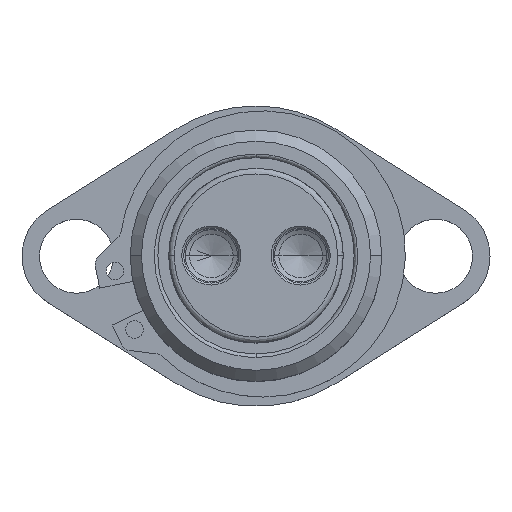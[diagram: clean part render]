
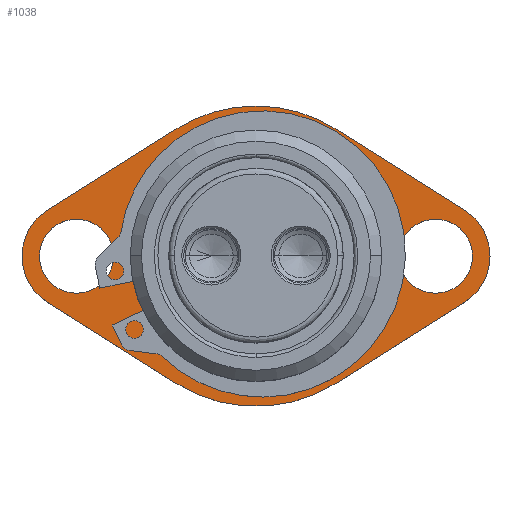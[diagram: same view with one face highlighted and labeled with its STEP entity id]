
A CAD part, top view. The second image highlights one B-rep face of the part: STEP entity #1038.
In plain terms, the highlighted planar face has unit normal (0, 0, 1) as drawn and (0, 1, 0) by its records, which use the part's own axes.
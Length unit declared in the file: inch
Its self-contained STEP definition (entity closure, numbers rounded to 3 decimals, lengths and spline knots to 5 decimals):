
#55 = EDGE_LOOP ( 'NONE', ( #2177, #4275, #4429, #4255, #3716, #3189, #1393, #2521, #4281 ) ) ;
#64 = CARTESIAN_POINT ( 'NONE',  ( 0., 0.25, 0. ) ) ;
#108 = CARTESIAN_POINT ( 'NONE',  ( -1.285, 0.25, 0. ) ) ;
#177 = FACE_BOUND ( 'NONE', #1784, .T. ) ;
#187 = CARTESIAN_POINT ( 'NONE',  ( -1.285, 0.25, 0. ) ) ;
#245 = CARTESIAN_POINT ( 'NONE',  ( 0., 0.25, 0. ) ) ;
#281 = CARTESIAN_POINT ( 'NONE',  ( 0.57305, 0.25, -0.90952 ) ) ;
#334 = EDGE_CURVE ( 'NONE', #3624, #1460, #3376, .T. ) ;
#350 = VERTEX_POINT ( 'NONE', #1143 ) ;
#352 = VECTOR ( 'NONE', #3764, 39.37008 ) ;
#369 = CARTESIAN_POINT ( 'NONE',  ( 0.57305, 0.25, -0.90952 ) ) ;
#391 = ORIENTED_EDGE ( 'NONE', *, *, #857, .T. ) ;
#493 = VECTOR ( 'NONE', #3852, 39.37008 ) ;
#505 = CIRCLE ( 'NONE', #1679, 0.39 ) ;
#527 = EDGE_CURVE ( 'NONE', #2803, #590, #4268, .T. ) ;
#554 = CIRCLE ( 'NONE', #1247, 0.265 ) ;
#590 = VERTEX_POINT ( 'NONE', #777 ) ;
#594 = CARTESIAN_POINT ( 'NONE',  ( 1.285, 0.25, 0. ) ) ;
#600 = DIRECTION ( 'NONE',  ( 0., -1., 0. ) ) ;
#634 = CARTESIAN_POINT ( 'NONE',  ( 0., 0.25, -1.075 ) ) ;
#678 = VERTEX_POINT ( 'NONE', #281 ) ;
#681 = VERTEX_POINT ( 'NONE', #3674 ) ;
#694 = AXIS2_PLACEMENT_3D ( 'NONE', #187, #3581, #1889 ) ;
#737 = DIRECTION ( 'NONE',  ( 0., -1., 0. ) ) ;
#776 = EDGE_CURVE ( 'NONE', #2803, #678, #1385, .T. ) ;
#777 = CARTESIAN_POINT ( 'NONE',  ( 1.4929, 0.25, 0.32997 ) ) ;
#846 = DIRECTION ( 'NONE',  ( 0., -1., 0. ) ) ;
#857 = EDGE_CURVE ( 'NONE', #2740, #2120, #2665, .T. ) ;
#880 = CARTESIAN_POINT ( 'NONE',  ( -1.4929, 0.25, 0.32997 ) ) ;
#921 = EDGE_LOOP ( 'NONE', ( #2251, #2103 ) ) ;
#932 = CARTESIAN_POINT ( 'NONE',  ( 1.285, 0.25, 0. ) ) ;
#933 = CIRCLE ( 'NONE', #2996, 0.9 ) ;
#934 = FACE_BOUND ( 'NONE', #4415, .T. ) ;
#984 = LINE ( 'NONE', #2492, #493 ) ;
#986 = AXIS2_PLACEMENT_3D ( 'NONE', #4163, #737, #3477 ) ;
#1038 = ADVANCED_FACE ( 'NONE', ( #2439, #1277, #934, #177 ), #4077, .T. ) ;
#1128 = AXIS2_PLACEMENT_3D ( 'NONE', #108, #3243, #1873 ) ;
#1143 = CARTESIAN_POINT ( 'NONE',  ( 1.285, 0.25, 0.265 ) ) ;
#1152 = DIRECTION ( 'NONE',  ( 0., 0., -1. ) ) ;
#1153 = CARTESIAN_POINT ( 'NONE',  ( -1.4929, 0.25, -0.32997 ) ) ;
#1247 = AXIS2_PLACEMENT_3D ( 'NONE', #932, #1637, #4023 ) ;
#1277 = FACE_OUTER_BOUND ( 'NONE', #55, .T. ) ;
#1292 = LINE ( 'NONE', #3807, #352 ) ;
#1316 = AXIS2_PLACEMENT_3D ( 'NONE', #4414, #4090, #3400 ) ;
#1385 = LINE ( 'NONE', #369, #3793 ) ;
#1393 = ORIENTED_EDGE ( 'NONE', *, *, #527, .F. ) ;
#1396 = EDGE_CURVE ( 'NONE', #350, #2868, #554, .T. ) ;
#1411 = CARTESIAN_POINT ( 'NONE',  ( 0., 0.25, -0.9 ) ) ;
#1460 = VERTEX_POINT ( 'NONE', #3067 ) ;
#1487 = ORIENTED_EDGE ( 'NONE', *, *, #3911, .T. ) ;
#1599 = CARTESIAN_POINT ( 'NONE',  ( 1.4929, 0.25, -0.32997 ) ) ;
#1637 = DIRECTION ( 'NONE',  ( 0., -1., 0. ) ) ;
#1679 = AXIS2_PLACEMENT_3D ( 'NONE', #1964, #846, #3571 ) ;
#1723 = EDGE_CURVE ( 'NONE', #3302, #3386, #984, .T. ) ;
#1784 = EDGE_LOOP ( 'NONE', ( #391, #1487 ) ) ;
#1873 = DIRECTION ( 'NONE',  ( 0., 0., -1. ) ) ;
#1889 = DIRECTION ( 'NONE',  ( 0., 0., -1. ) ) ;
#1891 = CARTESIAN_POINT ( 'NONE',  ( 1.285, 0.25, -0.265 ) ) ;
#1964 = CARTESIAN_POINT ( 'NONE',  ( -1.285, 0.25, 0. ) ) ;
#2071 = DIRECTION ( 'NONE',  ( 0., 0., -1. ) ) ;
#2103 = ORIENTED_EDGE ( 'NONE', *, *, #2632, .T. ) ;
#2108 = CARTESIAN_POINT ( 'NONE',  ( -0.57305, 0.25, -0.90952 ) ) ;
#2116 = VERTEX_POINT ( 'NONE', #2543 ) ;
#2120 = VERTEX_POINT ( 'NONE', #3678 ) ;
#2172 = AXIS2_PLACEMENT_3D ( 'NONE', #2754, #4100, #2071 ) ;
#2176 = EDGE_CURVE ( 'NONE', #3624, #3386, #505, .T. ) ;
#2177 = ORIENTED_EDGE ( 'NONE', *, *, #3310, .F. ) ;
#2223 = EDGE_CURVE ( 'NONE', #2868, #350, #3787, .T. ) ;
#2251 = ORIENTED_EDGE ( 'NONE', *, *, #2414, .T. ) ;
#2252 = CARTESIAN_POINT ( 'NONE',  ( 0., 0.25, 0. ) ) ;
#2414 = EDGE_CURVE ( 'NONE', #3785, #2116, #2992, .T. ) ;
#2439 = FACE_BOUND ( 'NONE', #921, .T. ) ;
#2491 = ORIENTED_EDGE ( 'NONE', *, *, #2223, .T. ) ;
#2492 = CARTESIAN_POINT ( 'NONE',  ( -1.4929, 0.25, -0.32997 ) ) ;
#2521 = ORIENTED_EDGE ( 'NONE', *, *, #776, .T. ) ;
#2543 = CARTESIAN_POINT ( 'NONE',  ( -1.285, 0.25, 0.265 ) ) ;
#2630 = DIRECTION ( 'NONE',  ( 0., 0., -1. ) ) ;
#2632 = EDGE_CURVE ( 'NONE', #2116, #3785, #4378, .T. ) ;
#2638 = DIRECTION ( 'NONE',  ( 0., -1., 0. ) ) ;
#2665 = CIRCLE ( 'NONE', #986, 0.9 ) ;
#2681 = AXIS2_PLACEMENT_3D ( 'NONE', #64, #4171, #2814 ) ;
#2740 = VERTEX_POINT ( 'NONE', #1411 ) ;
#2754 = CARTESIAN_POINT ( 'NONE',  ( 0., 0.25, 0. ) ) ;
#2774 = CIRCLE ( 'NONE', #2172, 1.075 ) ;
#2791 = AXIS2_PLACEMENT_3D ( 'NONE', #245, #600, #3167 ) ;
#2803 = VERTEX_POINT ( 'NONE', #1599 ) ;
#2814 = DIRECTION ( 'NONE',  ( 0., 0., -1. ) ) ;
#2868 = VERTEX_POINT ( 'NONE', #1891 ) ;
#2873 = DIRECTION ( 'NONE',  ( 0., -1., 0. ) ) ;
#2887 = AXIS2_PLACEMENT_3D ( 'NONE', #3528, #2873, #1152 ) ;
#2891 = VECTOR ( 'NONE', #3583, 39.37008 ) ;
#2920 = EDGE_CURVE ( 'NONE', #681, #1460, #4157, .T. ) ;
#2992 = CIRCLE ( 'NONE', #1128, 0.265 ) ;
#2996 = AXIS2_PLACEMENT_3D ( 'NONE', #2252, #4020, #2630 ) ;
#3005 = CIRCLE ( 'NONE', #2681, 1.075 ) ;
#3067 = CARTESIAN_POINT ( 'NONE',  ( -0.57305, 0.25, 0.90952 ) ) ;
#3167 = DIRECTION ( 'NONE',  ( 0., 0., -1. ) ) ;
#3189 = ORIENTED_EDGE ( 'NONE', *, *, #4284, .T. ) ;
#3208 = CARTESIAN_POINT ( 'NONE',  ( -1.285, 0.25, -0.265 ) ) ;
#3243 = DIRECTION ( 'NONE',  ( 0., -1., 0. ) ) ;
#3302 = VERTEX_POINT ( 'NONE', #2108 ) ;
#3310 = EDGE_CURVE ( 'NONE', #3302, #4045, #3005, .T. ) ;
#3376 = LINE ( 'NONE', #880, #2891 ) ;
#3386 = VERTEX_POINT ( 'NONE', #1153 ) ;
#3400 = DIRECTION ( 'NONE',  ( 0., 0., 1. ) ) ;
#3454 = ORIENTED_EDGE ( 'NONE', *, *, #1396, .T. ) ;
#3477 = DIRECTION ( 'NONE',  ( 0., 0., -1. ) ) ;
#3528 = CARTESIAN_POINT ( 'NONE',  ( 1.285, 0.25, 0. ) ) ;
#3571 = DIRECTION ( 'NONE',  ( 0., 0., -1. ) ) ;
#3581 = DIRECTION ( 'NONE',  ( 0., -1., 0. ) ) ;
#3583 = DIRECTION ( 'NONE',  ( 0.846, 0., 0.533 ) ) ;
#3624 = VERTEX_POINT ( 'NONE', #3675 ) ;
#3674 = CARTESIAN_POINT ( 'NONE',  ( 0.57305, 0.25, 0.90952 ) ) ;
#3675 = CARTESIAN_POINT ( 'NONE',  ( -1.4929, 0.25, 0.32997 ) ) ;
#3678 = CARTESIAN_POINT ( 'NONE',  ( 0., 0.25, 0.9 ) ) ;
#3716 = ORIENTED_EDGE ( 'NONE', *, *, #2920, .F. ) ;
#3735 = AXIS2_PLACEMENT_3D ( 'NONE', #594, #2638, #4241 ) ;
#3764 = DIRECTION ( 'NONE',  ( 0.846, 0., -0.533 ) ) ;
#3785 = VERTEX_POINT ( 'NONE', #3208 ) ;
#3787 = CIRCLE ( 'NONE', #3735, 0.265 ) ;
#3793 = VECTOR ( 'NONE', #4148, 39.37008 ) ;
#3807 = CARTESIAN_POINT ( 'NONE',  ( 0.57305, 0.25, 0.90952 ) ) ;
#3852 = DIRECTION ( 'NONE',  ( -0.846, 0., 0.533 ) ) ;
#3911 = EDGE_CURVE ( 'NONE', #2120, #2740, #933, .T. ) ;
#4020 = DIRECTION ( 'NONE',  ( 0., -1., 0. ) ) ;
#4023 = DIRECTION ( 'NONE',  ( 0., 0., -1. ) ) ;
#4045 = VERTEX_POINT ( 'NONE', #634 ) ;
#4077 = PLANE ( 'NONE',  #1316 ) ;
#4090 = DIRECTION ( 'NONE',  ( 0., 1., 0. ) ) ;
#4100 = DIRECTION ( 'NONE',  ( 0., -1., 0. ) ) ;
#4148 = DIRECTION ( 'NONE',  ( -0.846, 0., -0.533 ) ) ;
#4157 = CIRCLE ( 'NONE', #2791, 1.075 ) ;
#4163 = CARTESIAN_POINT ( 'NONE',  ( 0., 0.25, 0. ) ) ;
#4171 = DIRECTION ( 'NONE',  ( 0., -1., 0. ) ) ;
#4241 = DIRECTION ( 'NONE',  ( 0., 0., -1. ) ) ;
#4255 = ORIENTED_EDGE ( 'NONE', *, *, #334, .T. ) ;
#4268 = CIRCLE ( 'NONE', #2887, 0.39 ) ;
#4275 = ORIENTED_EDGE ( 'NONE', *, *, #1723, .T. ) ;
#4281 = ORIENTED_EDGE ( 'NONE', *, *, #4286, .F. ) ;
#4284 = EDGE_CURVE ( 'NONE', #681, #590, #1292, .T. ) ;
#4286 = EDGE_CURVE ( 'NONE', #4045, #678, #2774, .T. ) ;
#4378 = CIRCLE ( 'NONE', #694, 0.265 ) ;
#4414 = CARTESIAN_POINT ( 'NONE',  ( -1.285, 0.25, 0. ) ) ;
#4415 = EDGE_LOOP ( 'NONE', ( #2491, #3454 ) ) ;
#4429 = ORIENTED_EDGE ( 'NONE', *, *, #2176, .F. ) ;
